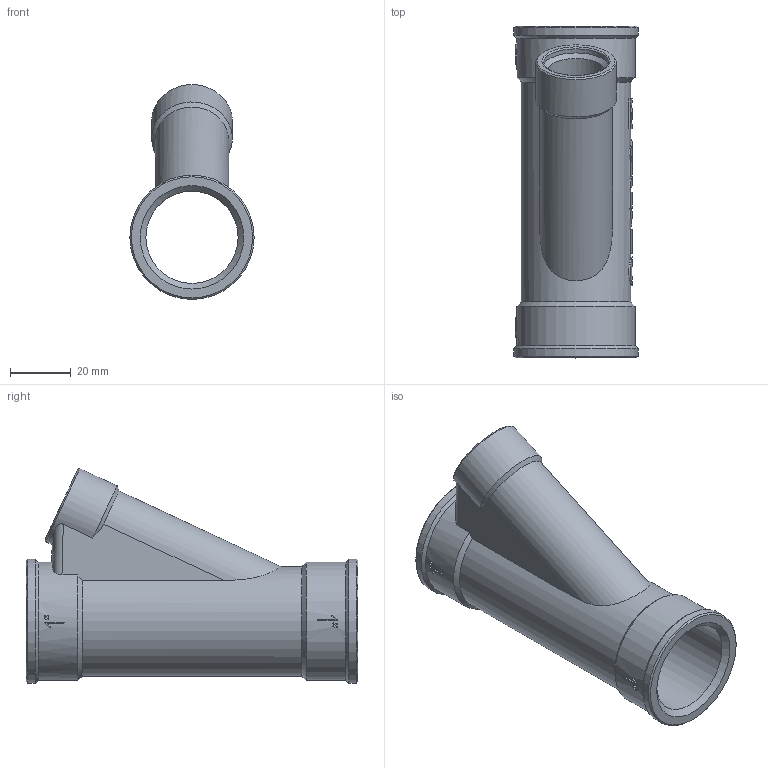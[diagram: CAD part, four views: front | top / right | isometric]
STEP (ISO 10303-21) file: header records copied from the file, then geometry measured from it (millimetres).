
FILE_DESCRIPTION(('STEP AP203'), '1');
FILE_NAME('ÂÐ.752246.003 - VTr.136.N.0604 - Ôèò. ðåçüá. òðîé. êîñ', '2024-06-26T12:47:00', ('Boss'), (''), 'C3D Converter', 'C3D Toolkit', '');
FILE_SCHEMA(('CONFIG_CONTROL_DESIGN'));
Length unit declared in the file: millimetre
Products named in the file (1): ВР.752246.003
Bounding box: 40.8 x 109 x 70.57 mm (x, y, z)
Volume: 51275.1 mm3; surface area: 29852 mm2
Topology: 1 solids, 1 shells, 186 faces, 497 edges, 329 vertices
Faces by surface type: plane 89, extrusion 54, cylinder 29, cone 11, bspline 2, torus 1
Full cylindrical faces by diameter (mm): 18.632 x1, 21.4 x1, 26.5 x1, 30.292 x1, 36 x1, 38.8 x2, 40.8 x2
Entity records: 8246 total; most frequent: CARTESIAN_POINT 4005, ORIENTED_EDGE 956, DIRECTION 680, EDGE_CURVE 478, VERTEX_POINT 329, VECTOR 270, EDGE_LOOP 225, LINE 216
